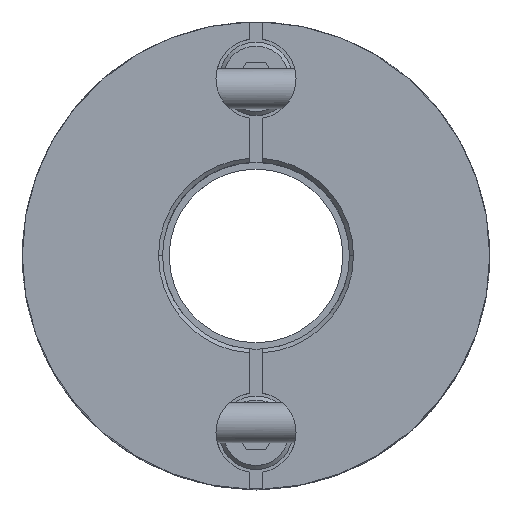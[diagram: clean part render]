
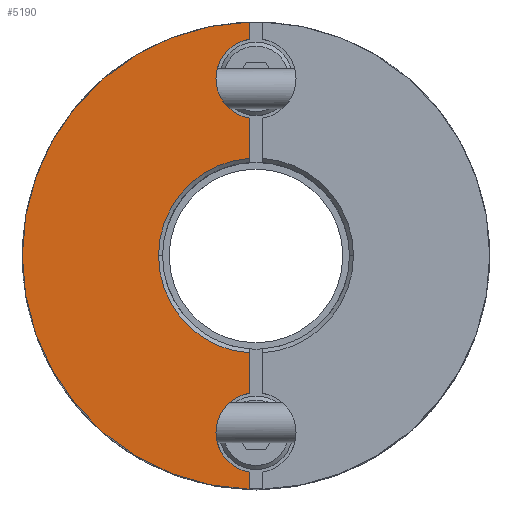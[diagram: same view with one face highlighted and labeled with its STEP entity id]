
A CAD part, top view. The second image highlights one B-rep face of the part: STEP entity #5190.
In plain terms, the highlighted planar face has unit normal (0, 0, 1).
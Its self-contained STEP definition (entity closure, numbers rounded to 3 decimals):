
#2205=CARTESIAN_POINT('',(-7.3,0.,13.5));
#2206=VERTEX_POINT('',#2205);
#2213=CARTESIAN_POINT('',(-0.5,-7.283,13.5));
#2214=VERTEX_POINT('',#2213);
#2215=CARTESIAN_POINT('',(0.,0.0,13.5));
#2216=DIRECTION('',(0.0,0.0,1.0));
#2217=DIRECTION('',(1.0,0.0,0.0));
#2218=AXIS2_PLACEMENT_3D('',#2215,#2216,#2217);
#2219=CIRCLE('',#2218,7.3);
#2220=EDGE_CURVE('',#2206,#2214,#2219,.T.);
#2285=CARTESIAN_POINT('',(-17.5,0.,13.5));
#2286=VERTEX_POINT('',#2285);
#2370=CARTESIAN_POINT('',(-0.5,-17.493,13.5));
#2371=VERTEX_POINT('',#2370);
#2378=CARTESIAN_POINT('',(0.,0.0,13.5));
#2379=DIRECTION('',(0.0,0.0,-1.0));
#2380=DIRECTION('',(-1.0,0.0,0.0));
#2381=AXIS2_PLACEMENT_3D('',#2378,#2379,#2380);
#2382=CIRCLE('',#2381,17.5);
#2383=EDGE_CURVE('',#2371,#2286,#2382,.T.);
#2525=CARTESIAN_POINT('',(-3.,13.25,13.5));
#2526=VERTEX_POINT('',#2525);
#2535=CARTESIAN_POINT('',(-0.5,10.292,13.5));
#2536=VERTEX_POINT('',#2535);
#2537=CARTESIAN_POINT('',(0.,13.25,13.5));
#2538=DIRECTION('',(0.0,0.0,-1.0));
#2539=DIRECTION('',(-1.0,0.0,0.0));
#2540=AXIS2_PLACEMENT_3D('',#2537,#2538,#2539);
#2541=CIRCLE('',#2540,3.0);
#2542=EDGE_CURVE('',#2536,#2526,#2541,.T.);
#2809=CARTESIAN_POINT('',(-3.,-13.25,13.5));
#2810=VERTEX_POINT('',#2809);
#2819=CARTESIAN_POINT('',(-0.5,-16.208,13.5));
#2820=VERTEX_POINT('',#2819);
#2821=CARTESIAN_POINT('',(0.,-13.25,13.5));
#2822=DIRECTION('',(0.0,0.0,-1.0));
#2823=DIRECTION('',(-1.0,0.0,0.0));
#2824=AXIS2_PLACEMENT_3D('',#2821,#2822,#2823);
#2825=CIRCLE('',#2824,3.0);
#2826=EDGE_CURVE('',#2820,#2810,#2825,.T.);
#4908=CARTESIAN_POINT('',(-0.5,-10.292,13.5));
#4909=VERTEX_POINT('',#4908);
#4916=CARTESIAN_POINT('',(0.,-13.25,13.5));
#4917=DIRECTION('',(0.0,0.0,-1.0));
#4918=DIRECTION('',(-1.0,0.0,0.0));
#4919=AXIS2_PLACEMENT_3D('',#4916,#4917,#4918);
#4920=CIRCLE('',#4919,3.0);
#4921=EDGE_CURVE('',#2810,#4909,#4920,.T.);
#5016=CARTESIAN_POINT('',(-0.5,16.208,13.5));
#5017=VERTEX_POINT('',#5016);
#5024=CARTESIAN_POINT('',(0.,13.25,13.5));
#5025=DIRECTION('',(0.0,0.0,-1.0));
#5026=DIRECTION('',(-1.0,0.0,0.0));
#5027=AXIS2_PLACEMENT_3D('',#5024,#5025,#5026);
#5028=CIRCLE('',#5027,3.0);
#5029=EDGE_CURVE('',#2526,#5017,#5028,.T.);
#5114=CARTESIAN_POINT('',(-0.5,-10.292,13.5));
#5115=DIRECTION('',(0.0,1.0,0.0));
#5116=VECTOR('',#5115,3.009);
#5117=LINE('',#5114,#5116);
#5118=EDGE_CURVE('',#4909,#2214,#5117,.T.);
#5129=CARTESIAN_POINT('',(-0.5,-17.493,13.5));
#5130=DIRECTION('',(0.0,1.0,0.0));
#5131=VECTOR('',#5130,1.285);
#5132=LINE('',#5129,#5131);
#5133=EDGE_CURVE('',#2371,#2820,#5132,.T.);
#5145=CARTESIAN_POINT('',(-1.591,0.,13.5));
#5146=DIRECTION('',(0.0,0.0,1.0));
#5147=DIRECTION('',(-1.0,0.0,0.0));
#5148=AXIS2_PLACEMENT_3D('',#5145,#5146,#5147);
#5149=PLANE('',#5148);
#5150=ORIENTED_EDGE('',*,*,#2826,.T.);
#5151=ORIENTED_EDGE('',*,*,#4921,.T.);
#5152=ORIENTED_EDGE('',*,*,#5118,.T.);
#5153=ORIENTED_EDGE('',*,*,#2220,.F.);
#5154=CARTESIAN_POINT('',(-0.5,7.283,13.5));
#5155=VERTEX_POINT('',#5154);
#5156=CARTESIAN_POINT('',(0.,0.0,13.5));
#5157=DIRECTION('',(0.0,0.0,1.0));
#5158=DIRECTION('',(1.0,0.0,0.0));
#5159=AXIS2_PLACEMENT_3D('',#5156,#5157,#5158);
#5160=CIRCLE('',#5159,7.3);
#5161=EDGE_CURVE('',#5155,#2206,#5160,.T.);
#5162=ORIENTED_EDGE('',*,*,#5161,.F.);
#5163=CARTESIAN_POINT('',(-0.5,7.283,13.5));
#5164=DIRECTION('',(0.0,1.0,0.0));
#5165=VECTOR('',#5164,3.009);
#5166=LINE('',#5163,#5165);
#5167=EDGE_CURVE('',#5155,#2536,#5166,.T.);
#5168=ORIENTED_EDGE('',*,*,#5167,.T.);
#5169=ORIENTED_EDGE('',*,*,#2542,.T.);
#5170=ORIENTED_EDGE('',*,*,#5029,.T.);
#5171=CARTESIAN_POINT('',(-0.5,17.493,13.5));
#5172=VERTEX_POINT('',#5171);
#5173=CARTESIAN_POINT('',(-0.5,16.208,13.5));
#5174=DIRECTION('',(0.0,1.0,0.0));
#5175=VECTOR('',#5174,1.285);
#5176=LINE('',#5173,#5175);
#5177=EDGE_CURVE('',#5017,#5172,#5176,.T.);
#5178=ORIENTED_EDGE('',*,*,#5177,.T.);
#5179=CARTESIAN_POINT('',(0.,0.0,13.5));
#5180=DIRECTION('',(0.0,0.0,-1.0));
#5181=DIRECTION('',(-1.0,0.0,0.0));
#5182=AXIS2_PLACEMENT_3D('',#5179,#5180,#5181);
#5183=CIRCLE('',#5182,17.5);
#5184=EDGE_CURVE('',#2286,#5172,#5183,.T.);
#5185=ORIENTED_EDGE('',*,*,#5184,.F.);
#5186=ORIENTED_EDGE('',*,*,#2383,.F.);
#5187=ORIENTED_EDGE('',*,*,#5133,.T.);
#5188=EDGE_LOOP('',(#5150,#5151,#5152,#5153,#5162,#5168,#5169,#5170,#5178,#5185,#5186,#5187));
#5189=FACE_OUTER_BOUND('',#5188,.T.);
#5190=ADVANCED_FACE('',(#5189),#5149,.T.);
